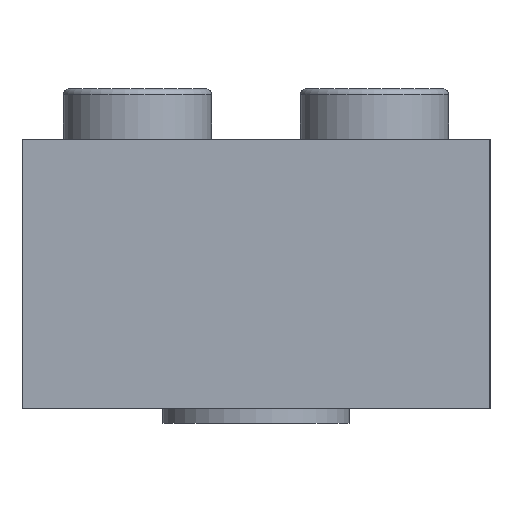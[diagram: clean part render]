
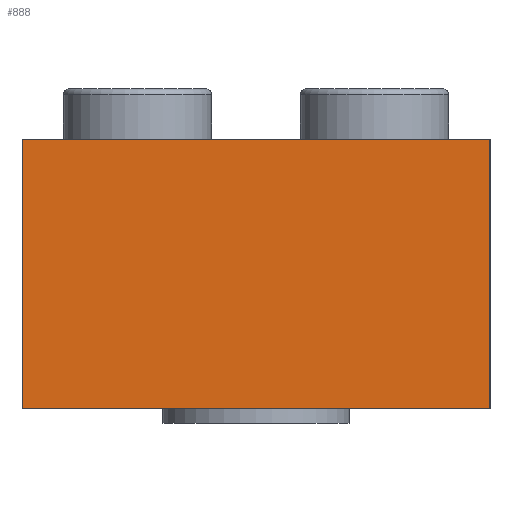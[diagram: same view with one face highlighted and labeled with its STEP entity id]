
A CAD part, left-side view. The second image highlights one B-rep face of the part: STEP entity #888.
In plain terms, the highlighted planar face has unit normal (-1, 0, 0).
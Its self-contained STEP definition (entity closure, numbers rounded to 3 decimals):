
#68=PLANE('',#1033);
#106=LINE('',#1579,#152);
#114=LINE('',#1594,#160);
#115=LINE('',#1596,#161);
#116=LINE('',#1597,#162);
#152=VECTOR('',#1325,10.);
#160=VECTOR('',#1337,10.);
#161=VECTOR('',#1340,10.);
#162=VECTOR('',#1341,10.);
#245=FACE_OUTER_BOUND('',#322,.T.);
#322=EDGE_LOOP('',(#796,#797,#798,#799));
#471=VERTEX_POINT('',#1576);
#472=VERTEX_POINT('',#1578);
#476=VERTEX_POINT('',#1590);
#477=VERTEX_POINT('',#1592);
#581=EDGE_CURVE('',#471,#472,#106,.T.);
#589=EDGE_CURVE('',#476,#477,#114,.T.);
#590=EDGE_CURVE('',#471,#476,#115,.T.);
#591=EDGE_CURVE('',#472,#477,#116,.T.);
#796=ORIENTED_EDGE('',*,*,#590,.T.);
#797=ORIENTED_EDGE('',*,*,#589,.T.);
#798=ORIENTED_EDGE('',*,*,#591,.F.);
#799=ORIENTED_EDGE('',*,*,#581,.F.);
#888=ADVANCED_FACE('',(#245),#68,.T.);
#1033=AXIS2_PLACEMENT_3D('',#1595,#1338,#1339);
#1325=DIRECTION('',(0.,0.,1.));
#1337=DIRECTION('',(0.,0.,1.));
#1338=DIRECTION('center_axis',(-1.,0.,0.));
#1339=DIRECTION('ref_axis',(0.,-1.,0.));
#1340=DIRECTION('',(0.,-1.,0.));
#1341=DIRECTION('',(0.,-1.,0.));
#1576=CARTESIAN_POINT('',(0.,15.8,0.));
#1578=CARTESIAN_POINT('',(0.,15.8,9.1));
#1579=CARTESIAN_POINT('',(0.,15.8,0.));
#1590=CARTESIAN_POINT('',(0.,0.,0.));
#1592=CARTESIAN_POINT('',(0.,0.,9.1));
#1594=CARTESIAN_POINT('',(0.,0.,0.));
#1595=CARTESIAN_POINT('Origin',(0.,15.8,0.));
#1596=CARTESIAN_POINT('',(0.,15.8,0.));
#1597=CARTESIAN_POINT('',(0.,15.8,9.1));
